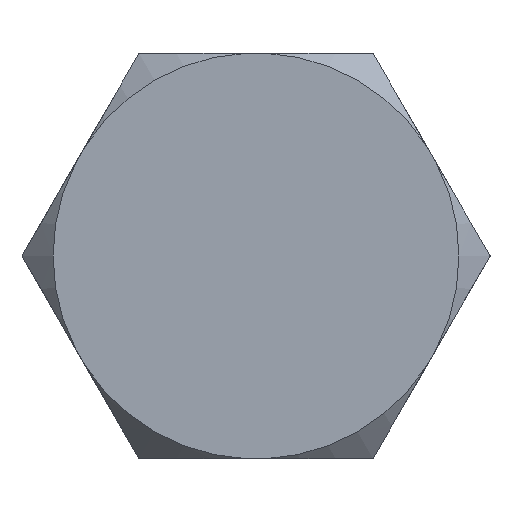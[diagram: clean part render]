
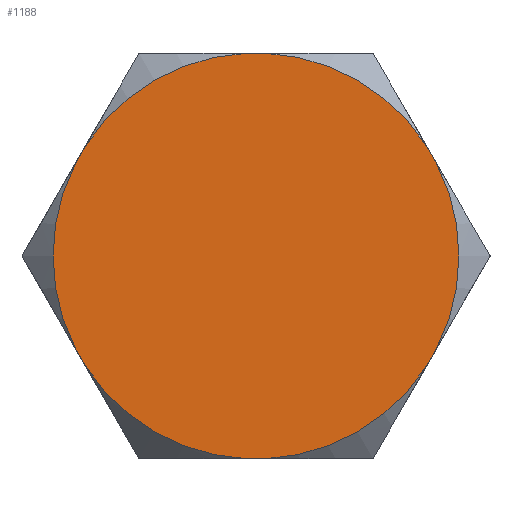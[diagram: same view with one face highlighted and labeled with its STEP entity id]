
A CAD part, front view. The second image highlights one B-rep face of the part: STEP entity #1188.
In plain terms, the highlighted planar face has unit normal (0, -1, 0).
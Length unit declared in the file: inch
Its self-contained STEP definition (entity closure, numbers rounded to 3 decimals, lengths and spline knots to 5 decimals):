
#67=PLANE('',#1345);
#135=LINE('',#2037,#181);
#138=LINE('',#2059,#184);
#141=LINE('',#2081,#187);
#144=LINE('',#2103,#190);
#147=LINE('',#2125,#193);
#150=LINE('',#2147,#196);
#181=VECTOR('',#1570,0.3937);
#184=VECTOR('',#1575,0.3937);
#187=VECTOR('',#1580,0.3937);
#190=VECTOR('',#1585,0.3937);
#193=VECTOR('',#1590,0.3937);
#196=VECTOR('',#1595,0.3937);
#246=FACE_OUTER_BOUND('',#318,.T.);
#318=EDGE_LOOP('',(#983,#984,#985,#986,#987,#988,#989,#990,#991,#992,#993,
#994));
#405=CIRCLE('',#1346,0.438);
#406=CIRCLE('',#1347,0.438);
#407=CIRCLE('',#1348,0.438);
#408=CIRCLE('',#1349,0.438);
#409=CIRCLE('',#1350,0.438);
#410=CIRCLE('',#1351,0.438);
#514=VERTEX_POINT('',#2032);
#515=VERTEX_POINT('',#2036);
#520=VERTEX_POINT('',#2054);
#521=VERTEX_POINT('',#2058);
#526=VERTEX_POINT('',#2076);
#527=VERTEX_POINT('',#2080);
#532=VERTEX_POINT('',#2098);
#533=VERTEX_POINT('',#2102);
#538=VERTEX_POINT('',#2120);
#539=VERTEX_POINT('',#2124);
#544=VERTEX_POINT('',#2142);
#545=VERTEX_POINT('',#2146);
#657=EDGE_CURVE('',#515,#514,#135,.T.);
#664=EDGE_CURVE('',#521,#520,#138,.T.);
#671=EDGE_CURVE('',#527,#526,#141,.T.);
#678=EDGE_CURVE('',#533,#532,#144,.T.);
#685=EDGE_CURVE('',#539,#538,#147,.T.);
#692=EDGE_CURVE('',#545,#544,#150,.T.);
#707=EDGE_CURVE('',#545,#514,#405,.T.);
#708=EDGE_CURVE('',#539,#544,#406,.T.);
#709=EDGE_CURVE('',#533,#538,#407,.T.);
#710=EDGE_CURVE('',#527,#532,#408,.T.);
#711=EDGE_CURVE('',#521,#526,#409,.T.);
#712=EDGE_CURVE('',#515,#520,#410,.T.);
#983=ORIENTED_EDGE('',*,*,#657,.T.);
#984=ORIENTED_EDGE('',*,*,#707,.F.);
#985=ORIENTED_EDGE('',*,*,#692,.T.);
#986=ORIENTED_EDGE('',*,*,#708,.F.);
#987=ORIENTED_EDGE('',*,*,#685,.T.);
#988=ORIENTED_EDGE('',*,*,#709,.F.);
#989=ORIENTED_EDGE('',*,*,#678,.T.);
#990=ORIENTED_EDGE('',*,*,#710,.F.);
#991=ORIENTED_EDGE('',*,*,#671,.T.);
#992=ORIENTED_EDGE('',*,*,#711,.F.);
#993=ORIENTED_EDGE('',*,*,#664,.T.);
#994=ORIENTED_EDGE('',*,*,#712,.F.);
#1188=ADVANCED_FACE('',(#246),#67,.T.);
#1345=AXIS2_PLACEMENT_3D('',#2177,#1645,#1646);
#1346=AXIS2_PLACEMENT_3D('',#2178,#1647,#1648);
#1347=AXIS2_PLACEMENT_3D('',#2179,#1649,#1650);
#1348=AXIS2_PLACEMENT_3D('',#2180,#1651,#1652);
#1349=AXIS2_PLACEMENT_3D('',#2181,#1653,#1654);
#1350=AXIS2_PLACEMENT_3D('',#2182,#1655,#1656);
#1351=AXIS2_PLACEMENT_3D('',#2183,#1657,#1658);
#1570=DIRECTION('',(0.5,0.,-0.866));
#1575=DIRECTION('',(-0.5,0.,-0.866));
#1580=DIRECTION('',(-1.,0.,0.));
#1585=DIRECTION('',(-0.5,0.,0.866));
#1590=DIRECTION('',(0.5,0.,0.866));
#1595=DIRECTION('',(1.,0.,0.));
#1645=DIRECTION('center_axis',(0.,-1.,0.));
#1646=DIRECTION('ref_axis',(0.,0.,-1.));
#1647=DIRECTION('center_axis',(0.,1.,0.));
#1648=DIRECTION('ref_axis',(0.,0.,1.));
#1649=DIRECTION('center_axis',(0.,1.,0.));
#1650=DIRECTION('ref_axis',(0.,0.,1.));
#1651=DIRECTION('center_axis',(0.,1.,0.));
#1652=DIRECTION('ref_axis',(0.,0.,1.));
#1653=DIRECTION('center_axis',(0.,1.,0.));
#1654=DIRECTION('ref_axis',(0.,0.,1.));
#1655=DIRECTION('center_axis',(0.,1.,0.));
#1656=DIRECTION('ref_axis',(0.,0.,1.));
#1657=DIRECTION('center_axis',(0.,1.,0.));
#1658=DIRECTION('ref_axis',(0.,0.,1.));
#2032=CARTESIAN_POINT('',(-0.36842,0.,-0.23687));
#2036=CARTESIAN_POINT('',(-0.38935,0.,-0.20063));
#2037=CARTESIAN_POINT('',(-0.44203,0.,-0.10938));
#2054=CARTESIAN_POINT('',(-0.38935,0.,0.20063));
#2058=CARTESIAN_POINT('',(-0.36842,0.,0.23687));
#2059=CARTESIAN_POINT('',(-0.31574,0.,0.32813));
#2076=CARTESIAN_POINT('',(-0.02092,0.,0.4375));
#2080=CARTESIAN_POINT('',(0.02092,0.,0.4375));
#2081=CARTESIAN_POINT('',(0.1263,0.,0.4375));
#2098=CARTESIAN_POINT('',(0.36842,0.,0.23687));
#2102=CARTESIAN_POINT('',(0.38935,0.,0.20063));
#2103=CARTESIAN_POINT('',(0.44203,0.,0.10938));
#2120=CARTESIAN_POINT('',(0.38935,0.,-0.20063));
#2124=CARTESIAN_POINT('',(0.36842,0.,-0.23687));
#2125=CARTESIAN_POINT('',(0.31574,0.,-0.32813));
#2142=CARTESIAN_POINT('',(0.02092,0.,-0.4375));
#2146=CARTESIAN_POINT('',(-0.02092,0.,-0.4375));
#2147=CARTESIAN_POINT('',(-0.1263,0.,-0.4375));
#2177=CARTESIAN_POINT('Origin',(0.,0.,0.));
#2178=CARTESIAN_POINT('Origin',(0.,0.,0.));
#2179=CARTESIAN_POINT('Origin',(0.,0.,0.));
#2180=CARTESIAN_POINT('Origin',(0.,0.,0.));
#2181=CARTESIAN_POINT('Origin',(0.,0.,0.));
#2182=CARTESIAN_POINT('Origin',(0.,0.,0.));
#2183=CARTESIAN_POINT('Origin',(0.,0.,0.));
